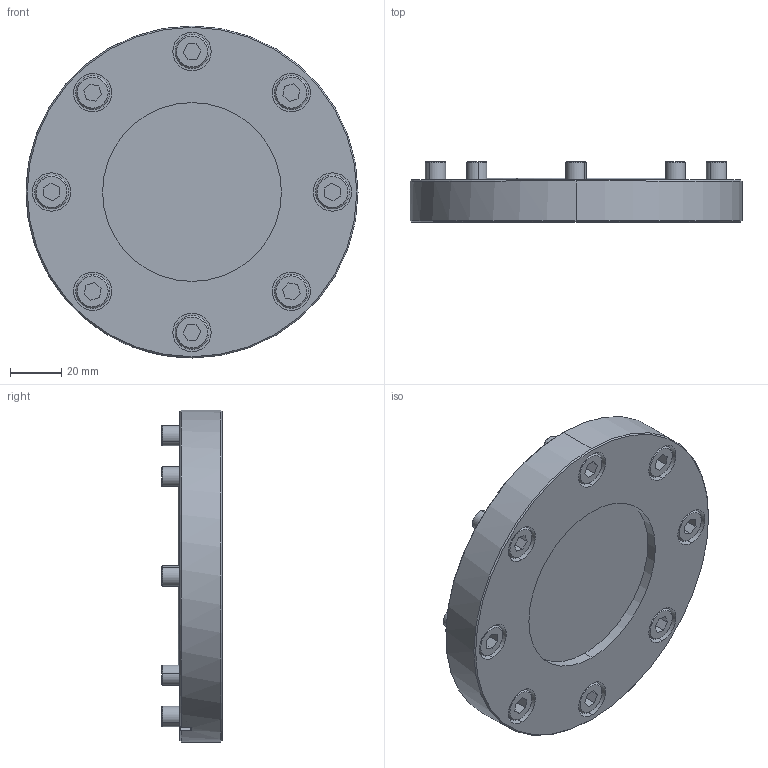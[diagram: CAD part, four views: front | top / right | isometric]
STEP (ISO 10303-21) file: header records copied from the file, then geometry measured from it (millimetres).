
FILE_DESCRIPTION (( 'STEP AP214' ), '1' );
FILE_NAME ('JK063-G-A-V-RV.STEP', '2020-05-03T05:39:58', ( '' ), ( '' ), 'SwSTEP 2.0', 'SolidWorks 2018', '' );
FILE_SCHEMA (( 'AUTOMOTIVE_DESIGN' ));
Length unit declared in the file: millimetre
Products named in the file (7): AS568-337; AS568-233; M8x15L_ル遽; JK063-02A-RV; JK063-G-A-V-RV; JK063-01D-K; JK063-03A-RV
Assembly tree (13 placements, depth 2):
  JK063-G-A-V-RV
    JK063-03A-RV
    AS568-233
    JK063-01D-K
    JK063-02A-RV
    AS568-337
    M8x15L_ル遽  x8
Bounding box: 130 x 23.6 x 130 mm (x, y, z)
Volume: 180566.6 mm3; surface area: 68716.9 mm2
Topology: 13 solids, 13 shells, 264 faces, 580 edges, 364 vertices
Faces by surface type: plane 100, cylinder 80, cone 47, torus 37
Entity records: 4432 total; most frequent: CARTESIAN_POINT 830, DIRECTION 788, ORIENTED_EDGE 628, AXIS2_PLACEMENT_3D 348, EDGE_CURVE 314, VERTEX_POINT 196, CIRCLE 194, EDGE_LOOP 170
